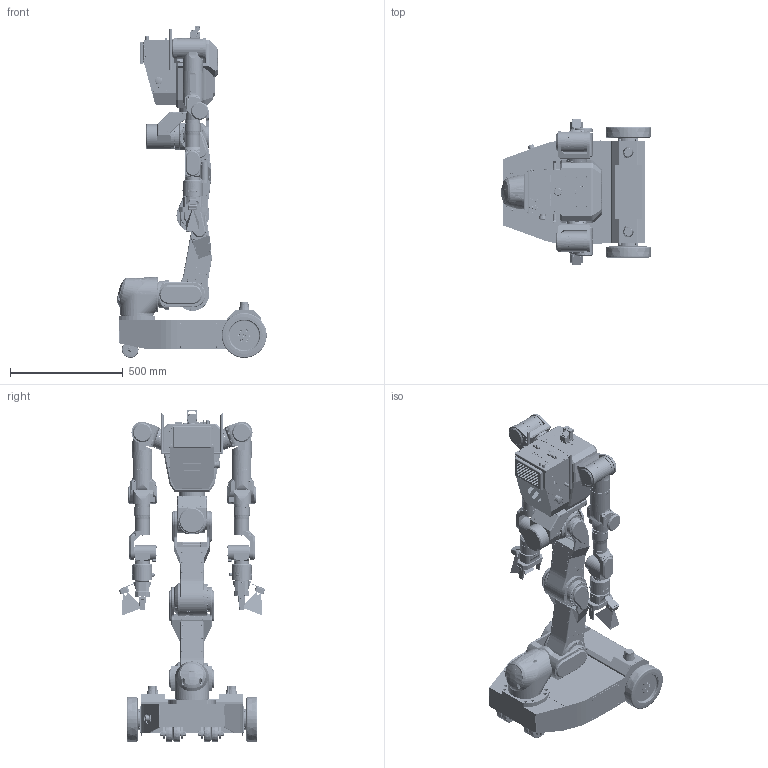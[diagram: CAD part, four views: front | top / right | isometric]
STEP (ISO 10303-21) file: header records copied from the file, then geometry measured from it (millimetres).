
FILE_DESCRIPTION(/* description */ (''),/* implementation_level */ '2;1');
FILE_NAME(/* name */ 'RB-Y1_v1.1_3D_Fast Grip_DD_KCs_260107.stp',/* time_stamp */ '2026-01-08T15:33:16+09:00',/* author */ ('KiWook.H'),/* organization */ (''),/* preprocessor_version */ 'ST-DEVELOPER v20',/* originating_system */ 'Autodesk Inventor 2025',/* authorisation */ '');
FILE_SCHEMA (('AUTOMOTIVE_DESIGN { 1 0 10303 214 3 1 1 }'));
Products named in the file (22): RB-Y1_v1.1_3D_Fast Grip_DD_KCs_260107; 000_Base_v1.1; 001_AR_v1.1; 002_AP_v1.1; 003_KN_v1.1; 004_HP_v1.1; 005_HR_v1.1; 006_HY_v1.1; 007_SP_R_v1.1; 008_SR_R_v1.1; 009_SY_R_v1.1; 010_EL_R_v1.1; 011_WY1_R_v1.1; 012_WP_R_v1.1; 014_SP_R_v1.1; 015_SR_R_v1.1; 016_SY_R_v1.1; 017_EL_R_v1.1; 018_WY1_R_v1.1; 019_WP_R_v1.1; 020_FTsensor TF_v1.1; 021_Gripper_Fast_v1.1
Assembly tree (23 placements, depth 2):
  RB-Y1_v1.1_3D_Fast Grip_DD_KCs_260107
    000_Base_v1.1
    001_AR_v1.1
    002_AP_v1.1
    003_KN_v1.1
    004_HP_v1.1
    005_HR_v1.1
    006_HY_v1.1
    007_SP_R_v1.1
    008_SR_R_v1.1
    009_SY_R_v1.1
    010_EL_R_v1.1
    011_WY1_R_v1.1
    012_WP_R_v1.1
    014_SP_R_v1.1
    015_SR_R_v1.1
    016_SY_R_v1.1
    017_EL_R_v1.1
    018_WY1_R_v1.1
    019_WP_R_v1.1
    020_FTsensor TF_v1.1  x2
    021_Gripper_Fast_v1.1  x2
Bounding box: 662.62 x 646.07 x 1470 mm (x, y, z)
Volume: 73808769.6 mm3; surface area: 4930905.9 mm2
Topology: 39 solids, 394 shells, 17650 faces, 45541 edges, 29839 vertices
Faces by surface type: plane 9784, cylinder 4779, cone 1780, torus 802, bspline 442, sphere 63
Full cylindrical faces by diameter (mm): 0.7 x16, 1 x3, 1.03 x16, 1.5 x10, 1.567 x16, 1.6 x13, 1.7 x10, 2 x50, 2.013 x4, 2.05 x12, 2.2 x4, 2.459 x89, 2.5 x43, 2.6 x4, 2.693 x10, 2.8 x22, 2.9 x2, 3 x193, 3.1 x10, 3.2 x30, 3.242 x3, 3.3 x24, 3.4 x20, 3.5 x4, 3.8 x4, 3.9 x1, 4 x78, 4.5 x22, 4.7 x18, 4.8 x6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
Entity records: 629759 total; most frequent: CARTESIAN_POINT 220828, ORIENTED_EDGE 83568, DIRECTION 80434, EDGE_CURVE 41800, AXIS2_PLACEMENT_3D 29018, VERTEX_POINT 27733, LINE 22398, VECTOR 22398
